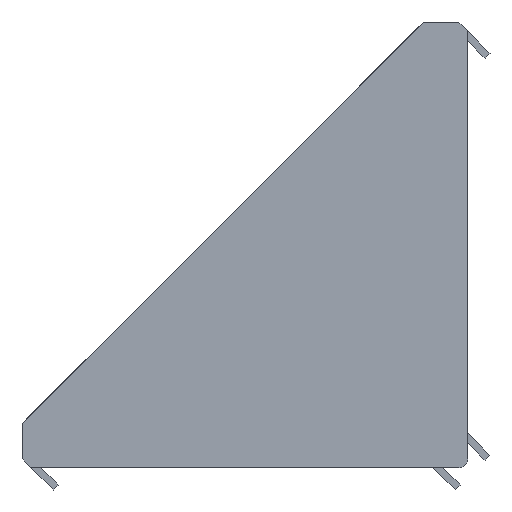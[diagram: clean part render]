
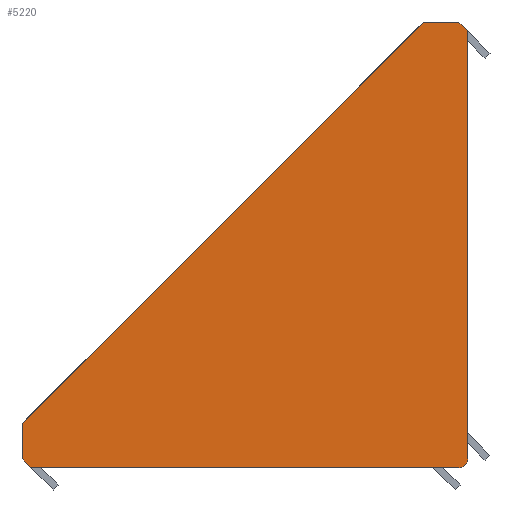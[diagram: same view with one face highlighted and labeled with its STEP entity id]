
A CAD part, left-side view. The second image highlights one B-rep face of the part: STEP entity #5220.
In plain terms, the highlighted planar face has unit normal (-1, 0, 0).
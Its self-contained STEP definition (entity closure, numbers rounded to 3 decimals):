
#170 = VECTOR ( 'NONE', #8956, 1000. ) ;
#320 = VECTOR ( 'NONE', #1638, 1000. ) ;
#426 = DIRECTION ( 'NONE',  ( 0., -0.707, 0.707 ) ) ;
#666 = CARTESIAN_POINT ( 'NONE',  ( -19., 0., 74.5 ) ) ;
#1246 = DIRECTION ( 'NONE',  ( 0., 0., -1. ) ) ;
#1379 = DIRECTION ( 'NONE',  ( 0., -1., 0. ) ) ;
#1505 = CARTESIAN_POINT ( 'NONE',  ( -19., 76., 0. ) ) ;
#1637 = DIRECTION ( 'NONE',  ( 0., 0., -1. ) ) ;
#1638 = DIRECTION ( 'NONE',  ( 0., 1., 0. ) ) ;
#1690 = VERTEX_POINT ( 'NONE', #5194 ) ;
#1731 = LINE ( 'NONE', #10671, #170 ) ;
#1752 = ORIENTED_EDGE ( 'NONE', *, *, #9284, .F. ) ;
#2005 = VERTEX_POINT ( 'NONE', #9798 ) ;
#2042 = LINE ( 'NONE', #2100, #5699 ) ;
#2100 = CARTESIAN_POINT ( 'NONE',  ( -19., 76., 7.5 ) ) ;
#2264 = EDGE_CURVE ( 'NONE', #5073, #8248, #7818, .T. ) ;
#2298 = ORIENTED_EDGE ( 'NONE', *, *, #2264, .F. ) ;
#2512 = AXIS2_PLACEMENT_3D ( 'NONE', #4562, #10432, #1246 ) ;
#2772 = CARTESIAN_POINT ( 'NONE',  ( -19., 1.5, 76. ) ) ;
#3052 = EDGE_CURVE ( 'NONE', #1690, #10433, #2042, .T. ) ;
#3113 = ORIENTED_EDGE ( 'NONE', *, *, #7311, .F. ) ;
#3286 = VECTOR ( 'NONE', #6572, 1000. ) ;
#3320 = CARTESIAN_POINT ( 'NONE',  ( -19., 7.5, 76. ) ) ;
#3979 = EDGE_CURVE ( 'NONE', #6943, #5073, #4110, .T. ) ;
#3982 = CARTESIAN_POINT ( 'NONE',  ( -19., 0., 76. ) ) ;
#4110 = LINE ( 'NONE', #6625, #320 ) ;
#4562 = CARTESIAN_POINT ( 'NONE',  ( -19., 1.5, 1.5 ) ) ;
#4949 = PLANE ( 'NONE',  #10202 ) ;
#4973 = CARTESIAN_POINT ( 'NONE',  ( -19., 76., 1.5 ) ) ;
#5007 = VERTEX_POINT ( 'NONE', #2772 ) ;
#5073 = VERTEX_POINT ( 'NONE', #9644 ) ;
#5079 = CIRCLE ( 'NONE', #2512, 1.5 ) ;
#5194 = CARTESIAN_POINT ( 'NONE',  ( -19., 76., 7.5 ) ) ;
#5215 = ORIENTED_EDGE ( 'NONE', *, *, #3979, .F. ) ;
#5220 = ADVANCED_FACE ( 'NONE', ( #9626 ), #4949, .F. ) ;
#5223 = EDGE_CURVE ( 'NONE', #5007, #5835, #10371, .T. ) ;
#5587 = VECTOR ( 'NONE', #9456, 1000. ) ;
#5678 = CARTESIAN_POINT ( 'NONE',  ( -19., 1.5, 76. ) ) ;
#5699 = VECTOR ( 'NONE', #426, 1000. ) ;
#5782 = DIRECTION ( 'NONE',  ( 0., -0.707, -0.707 ) ) ;
#5831 = VECTOR ( 'NONE', #1379, 1000. ) ;
#5835 = VERTEX_POINT ( 'NONE', #666 ) ;
#6572 = DIRECTION ( 'NONE',  ( 0., 0., 1. ) ) ;
#6624 = CARTESIAN_POINT ( 'NONE',  ( -19., 0., 0. ) ) ;
#6625 = CARTESIAN_POINT ( 'NONE',  ( -19., 0., 0. ) ) ;
#6694 = LINE ( 'NONE', #1505, #3286 ) ;
#6943 = VERTEX_POINT ( 'NONE', #7844 ) ;
#7088 = EDGE_CURVE ( 'NONE', #5835, #2005, #1731, .T. ) ;
#7311 = EDGE_CURVE ( 'NONE', #8248, #1690, #6694, .T. ) ;
#7340 = ORIENTED_EDGE ( 'NONE', *, *, #7088, .F. ) ;
#7639 = ORIENTED_EDGE ( 'NONE', *, *, #3052, .F. ) ;
#7706 = ORIENTED_EDGE ( 'NONE', *, *, #8718, .F. ) ;
#7761 = CARTESIAN_POINT ( 'NONE',  ( -19., 74.5, 0. ) ) ;
#7818 = LINE ( 'NONE', #7761, #5587 ) ;
#7844 = CARTESIAN_POINT ( 'NONE',  ( -19., 1.5, 0. ) ) ;
#8084 = LINE ( 'NONE', #3982, #5831 ) ;
#8248 = VERTEX_POINT ( 'NONE', #4973 ) ;
#8718 = EDGE_CURVE ( 'NONE', #2005, #6943, #5079, .T. ) ;
#8956 = DIRECTION ( 'NONE',  ( 0., 0., -1. ) ) ;
#9284 = EDGE_CURVE ( 'NONE', #10433, #5007, #8084, .T. ) ;
#9456 = DIRECTION ( 'NONE',  ( 0., 0.707, 0.707 ) ) ;
#9626 = FACE_OUTER_BOUND ( 'NONE', #10709, .T. ) ;
#9644 = CARTESIAN_POINT ( 'NONE',  ( -19., 74.5, 0. ) ) ;
#9753 = ORIENTED_EDGE ( 'NONE', *, *, #5223, .F. ) ;
#9798 = CARTESIAN_POINT ( 'NONE',  ( -19., 0., 1.5 ) ) ;
#9846 = VECTOR ( 'NONE', #5782, 1000. ) ;
#10202 = AXIS2_PLACEMENT_3D ( 'NONE', #6624, #10722, #1637 ) ;
#10371 = LINE ( 'NONE', #5678, #9846 ) ;
#10432 = DIRECTION ( 'NONE',  ( 1., 0., 0. ) ) ;
#10433 = VERTEX_POINT ( 'NONE', #3320 ) ;
#10671 = CARTESIAN_POINT ( 'NONE',  ( -19., 0., 0. ) ) ;
#10709 = EDGE_LOOP ( 'NONE', ( #9753, #1752, #7639, #3113, #2298, #5215, #7706, #7340 ) ) ;
#10722 = DIRECTION ( 'NONE',  ( 1., 0., 0. ) ) ;
